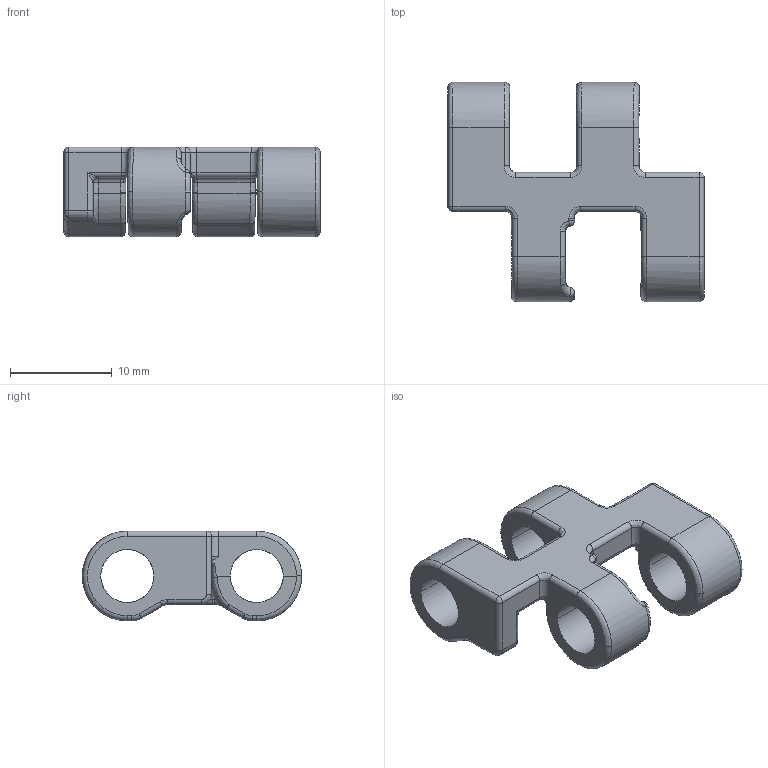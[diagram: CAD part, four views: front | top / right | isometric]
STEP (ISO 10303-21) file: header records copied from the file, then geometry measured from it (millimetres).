
FILE_DESCRIPTION((''),'2;1');
FILE_NAME('P1293','2020-12-07T09:14:20',('MTH'),(''),'CREO PARAMETRIC BY PTC INC, 2020184','CREO PARAMETRIC BY PTC INC, 2020184','');
FILE_SCHEMA(('AUTOMOTIVE_DESIGN { 1 0 10303 214 1 1 1 1 }'));
Length unit declared in the file: millimetre
Products named in the file (1): P1293
Bounding box: 25.14 x 21.5 x 8.8 mm (x, y, z)
Volume: 1416.5 mm3; surface area: 1664.1 mm2
Topology: 1 solids, 1 shells, 240 faces, 556 edges, 312 vertices
Faces by surface type: cylinder 102, bspline 78, plane 40, torus 12, sphere 8
Entity records: 11363 total; most frequent: CARTESIAN_POINT 6105, ORIENTED_EDGE 1112, DIRECTION 891, EDGE_CURVE 556, AXIS2_PLACEMENT_3D 342, VERTEX_POINT 312, EDGE_LOOP 242, FACE_OUTER_BOUND 240
